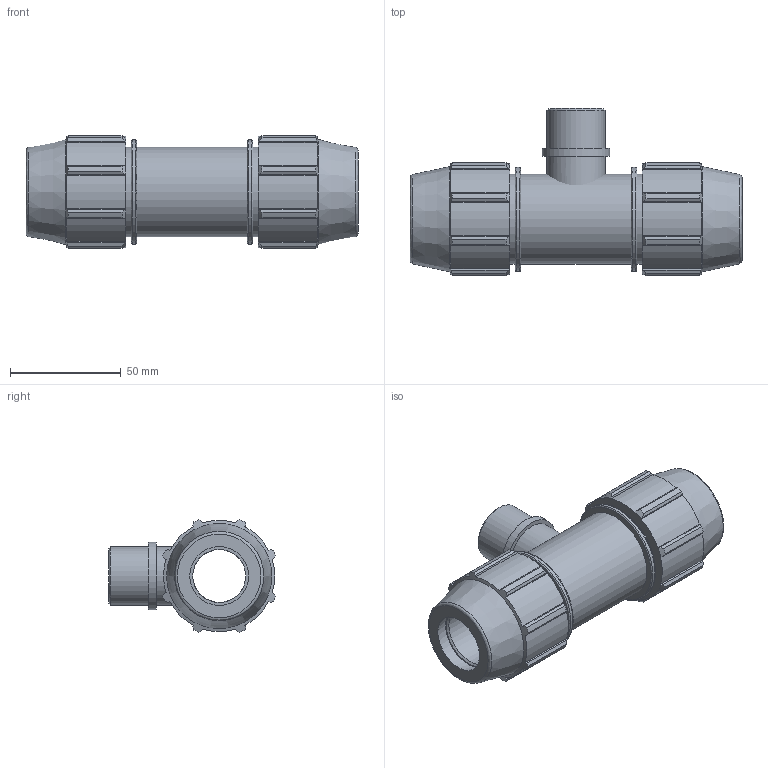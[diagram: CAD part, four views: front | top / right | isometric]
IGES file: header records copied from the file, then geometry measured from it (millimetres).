
Global section: file name: 0784M0007007.ipt; native system: Autodesk Inventor 2019; preprocessor: unknown; author: 12HКирилл; date: 20210826.124925; units: inch
Bounding box: 150.11 x 75.49 x 50.91 mm (x, y, z)
Volume: 173209.5 mm3; surface area: 47105.6 mm2
Topology: 2 solids, 2 shells, 158 faces, 443 edges, 300 vertices
Faces by surface type: plane 81, cylinder 40, cone 21, revolution 16
Full cylindrical faces by diameter (mm): 26.441 x2, 30.407 x1, 40.576 x3, 47.069 x2
